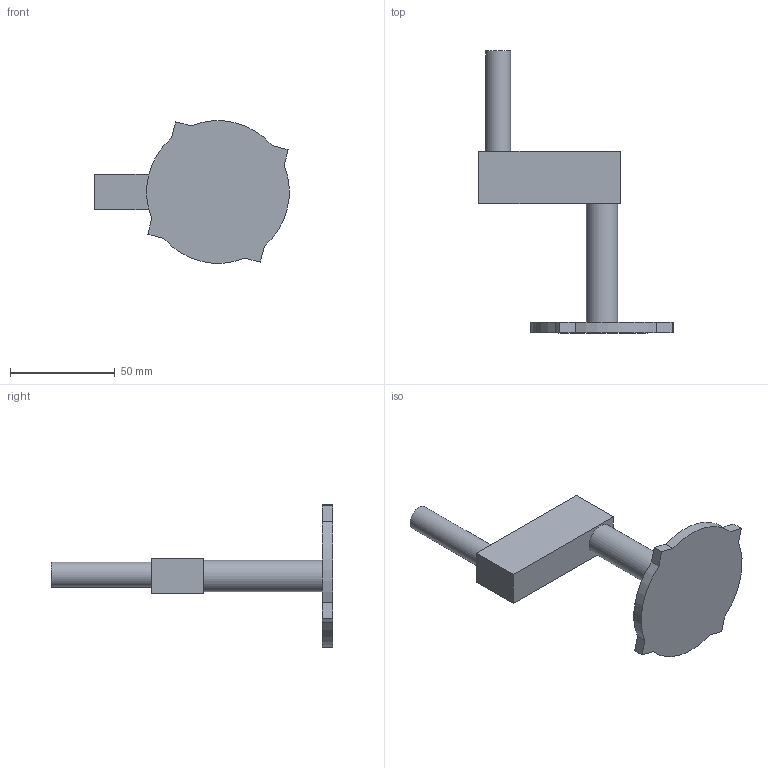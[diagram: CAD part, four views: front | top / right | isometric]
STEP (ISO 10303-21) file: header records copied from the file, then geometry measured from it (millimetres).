
FILE_DESCRIPTION(/* description */ ('STEP AP242 Edition 2','CAx-IF Rec.Pracs.---Representation and Presentation of Product Manufacturing Information (PMI)---4.0---2014-10-13','CAx-IF Rec.Pracs.---3D Tessellated Geometry---0.4---2014-09-14','2;1','CAx-IF Rec.Pracs.---User Defined Attributes---1.5---2016-08-15'),/* implementation_level */ '2;1');
FILE_NAME(/* name */ 'Part Studio 1 - Part 16',/* time_stamp */ '2026-10-19T00:09:51Z',/* author */ (''),/* organization */ (''),/* preprocessor_version */ 'ST-DEVELOPER v20',/* originating_system */ 'ONSHAPE BY PTC INC, 1.222',/* authorisation */ ' ');
FILE_SCHEMA (('AP242_MANAGED_MODEL_BASED_3D_ENGINEERING_MIM_LF { 1 0 10303 442 3 1 4 }'));
Length unit declared in the file: metre
Products named in the file (1): Part 16
Bounding box: 92.78 x 134.6 x 67.97 mm (x, y, z)
Volume: 62832.3 mm3; surface area: 19309.3 mm2
Topology: 1 solids, 1 shells, 23 faces, 54 edges, 36 vertices
Faces by surface type: plane 17, cylinder 6
Full cylindrical faces by diameter (mm): 11.96 x1, 15 x1
Entity records: 672 total; most frequent: DIRECTION 112, CARTESIAN_POINT 112, ORIENTED_EDGE 104, EDGE_CURVE 52, LINE 40, VECTOR 40, VERTEX_POINT 36, AXIS2_PLACEMENT_3D 36
